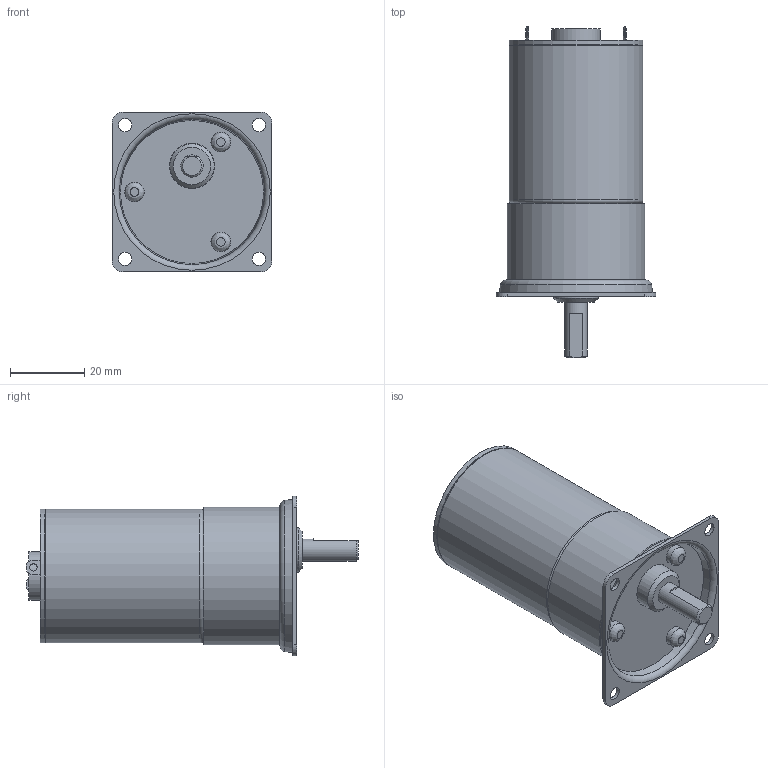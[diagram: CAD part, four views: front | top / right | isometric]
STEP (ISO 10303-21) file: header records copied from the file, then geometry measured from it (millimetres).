
FILE_DESCRIPTION((''),'2;1');
FILE_NAME('C:\Documents and Settings\SSEGAWA\デスクトップ\TP-3644D-PG-2.STP','2013-07-25T17:46:46',('SSEGAWA'),(''),'Autodesk Inventor 2010','Autodesk Inventor 2010','');
FILE_SCHEMA(('CONFIG_CONTROL_DESIGN'));
Length unit declared in the file: millimetre
Products named in the file (1): tp_3644dh_pg-2_Shrinkwrap_1
Bounding box: 43 x 89.3 x 43 mm (x, y, z)
Volume: 70137.4 mm3; surface area: 13821.3 mm2
Topology: 1 solids, 12 shells, 102 faces, 204 edges, 136 vertices
Faces by surface type: plane 46, cylinder 26, bspline 23, cone 4, torus 3
Full cylindrical faces by diameter (mm): 3 x1, 3.5 x1, 4 x3, 5.3 x3, 6 x1, 12 x1, 12.2 x1, 13 x1, 35.6 x1, 36 x2, 37 x1
Entity records: 2762 total; most frequent: CARTESIAN_POINT 828, DIRECTION 385, ORIENTED_EDGE 272, AXIS2_PLACEMENT_3D 171, EDGE_LOOP 169, EDGE_CURVE 136, VERTEX_POINT 113, STYLED_ITEM 103
